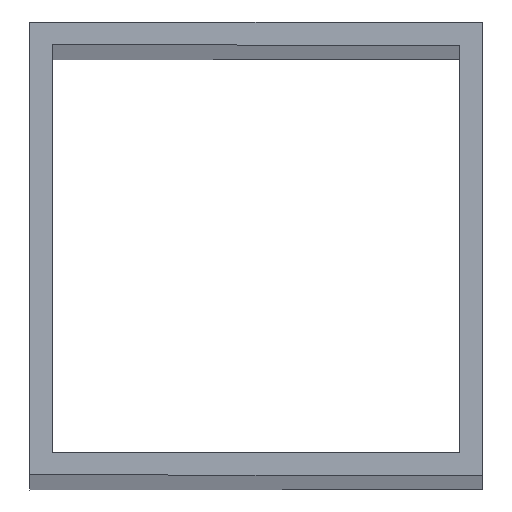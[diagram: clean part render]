
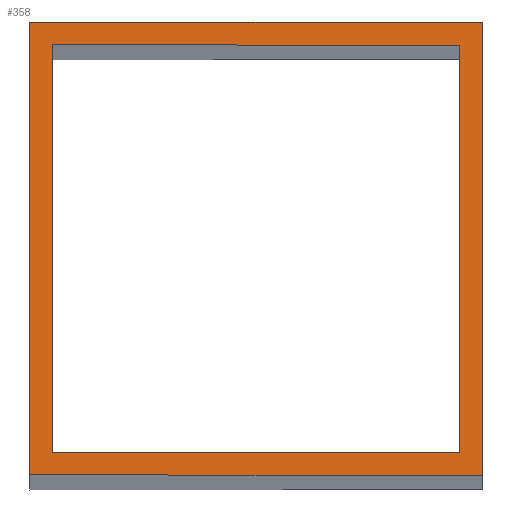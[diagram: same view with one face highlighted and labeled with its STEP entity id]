
A CAD part, top view. The second image highlights one B-rep face of the part: STEP entity #358.
In plain terms, the highlighted planar face has unit normal (0.707, 0, 0.707).
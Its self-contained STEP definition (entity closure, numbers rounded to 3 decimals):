
#32 = PLANE('',#33);
#33 = AXIS2_PLACEMENT_3D('',#34,#35,#36);
#34 = CARTESIAN_POINT('',(-40.,-40.,-40.));
#35 = DIRECTION('',(0.,1.,0.));
#36 = DIRECTION('',(1.,0.,0.));
#55 = VERTEX_POINT('',#56);
#56 = CARTESIAN_POINT('',(-40.,-40.,1503.138));
#70 = PLANE('',#71);
#71 = AXIS2_PLACEMENT_3D('',#72,#73,#74);
#72 = CARTESIAN_POINT('',(-40.,40.,-40.));
#73 = DIRECTION('',(1.,0.,-0.));
#74 = DIRECTION('',(0.,-1.,0.));
#82 = EDGE_CURVE('',#83,#55,#85,.T.);
#83 = VERTEX_POINT('',#84);
#84 = CARTESIAN_POINT('',(40.,-40.,1423.138));
#85 = SURFACE_CURVE('',#86,(#90,#96),.PCURVE_S1.);
#86 = LINE('',#87,#88);
#87 = CARTESIAN_POINT('',(731.569,-40.,731.569));
#88 = VECTOR('',#89,1.);
#89 = DIRECTION('',(-0.707,0.,0.707));
#90 = PCURVE('',#32,#91);
#91 = DEFINITIONAL_REPRESENTATION('',(#92),#95);
#92 = B_SPLINE_CURVE_WITH_KNOTS('',1,(#93,#94),.UNSPECIFIED.,.F.,.F.,(2,
    2),(978.027,1091.164),.PIECEWISE_BEZIER_KNOTS.);
#93 = CARTESIAN_POINT('',(80.,-1463.138));
#94 = CARTESIAN_POINT('',(0.,-1543.138));
#95 = ( GEOMETRIC_REPRESENTATION_CONTEXT(2) 
PARAMETRIC_REPRESENTATION_CONTEXT() REPRESENTATION_CONTEXT('2D SPACE',''
  ) );
#96 = PCURVE('',#97,#102);
#97 = PLANE('',#98);
#98 = AXIS2_PLACEMENT_3D('',#99,#100,#101);
#99 = CARTESIAN_POINT('',(731.569,-0.,731.569));
#100 = DIRECTION('',(-0.707,0.,-0.707));
#101 = DIRECTION('',(-0.707,0.,0.707));
#102 = DEFINITIONAL_REPRESENTATION('',(#103),#106);
#103 = B_SPLINE_CURVE_WITH_KNOTS('',1,(#104,#105),.UNSPECIFIED.,.F.,.F.,
  (2,2),(978.027,1091.164),.PIECEWISE_BEZIER_KNOTS.);
#104 = CARTESIAN_POINT('',(978.027,-40.));
#105 = CARTESIAN_POINT('',(1091.164,-40.));
#106 = ( GEOMETRIC_REPRESENTATION_CONTEXT(2) 
PARAMETRIC_REPRESENTATION_CONTEXT() REPRESENTATION_CONTEXT('2D SPACE',''
  ) );
#122 = PLANE('',#123);
#123 = AXIS2_PLACEMENT_3D('',#124,#125,#126);
#124 = CARTESIAN_POINT('',(40.,-40.,-40.));
#125 = DIRECTION('',(-1.,0.,0.));
#126 = DIRECTION('',(0.,1.,0.));
#154 = PLANE('',#155);
#155 = AXIS2_PLACEMENT_3D('',#156,#157,#158);
#156 = CARTESIAN_POINT('',(40.,40.,-40.));
#157 = DIRECTION('',(0.,-1.,0.));
#158 = DIRECTION('',(-1.,0.,0.));
#225 = PLANE('',#226);
#226 = AXIS2_PLACEMENT_3D('',#227,#228,#229);
#227 = CARTESIAN_POINT('',(-36.,-36.,-40.));
#228 = DIRECTION('',(0.,1.,0.));
#229 = DIRECTION('',(1.,0.,0.));
#251 = PLANE('',#252);
#252 = AXIS2_PLACEMENT_3D('',#253,#254,#255);
#253 = CARTESIAN_POINT('',(-36.,36.,-40.));
#254 = DIRECTION('',(1.,0.,-0.));
#255 = DIRECTION('',(0.,-1.,0.));
#277 = PLANE('',#278);
#278 = AXIS2_PLACEMENT_3D('',#279,#280,#281);
#279 = CARTESIAN_POINT('',(36.,36.,-40.));
#280 = DIRECTION('',(0.,-1.,0.));
#281 = DIRECTION('',(-1.,0.,0.));
#301 = PLANE('',#302);
#302 = AXIS2_PLACEMENT_3D('',#303,#304,#305);
#303 = CARTESIAN_POINT('',(36.,-36.,-40.));
#304 = DIRECTION('',(-1.,0.,0.));
#305 = DIRECTION('',(0.,1.,0.));
#317 = EDGE_CURVE('',#318,#83,#320,.T.);
#318 = VERTEX_POINT('',#319);
#319 = CARTESIAN_POINT('',(40.,40.,1423.138));
#320 = SURFACE_CURVE('',#321,(#325,#331),.PCURVE_S1.);
#321 = LINE('',#322,#323);
#322 = CARTESIAN_POINT('',(40.,-20.,1423.138));
#323 = VECTOR('',#324,1.);
#324 = DIRECTION('',(-0.,-1.,0.));
#325 = PCURVE('',#122,#326);
#326 = DEFINITIONAL_REPRESENTATION('',(#327),#330);
#327 = B_SPLINE_CURVE_WITH_KNOTS('',1,(#328,#329),.UNSPECIFIED.,.F.,.F.,
  (2,2),(-60.,20.),.PIECEWISE_BEZIER_KNOTS.);
#328 = CARTESIAN_POINT('',(80.,-1463.138));
#329 = CARTESIAN_POINT('',(0.,-1463.138));
#330 = ( GEOMETRIC_REPRESENTATION_CONTEXT(2) 
PARAMETRIC_REPRESENTATION_CONTEXT() REPRESENTATION_CONTEXT('2D SPACE',''
  ) );
#331 = PCURVE('',#97,#332);
#332 = DEFINITIONAL_REPRESENTATION('',(#333),#336);
#333 = B_SPLINE_CURVE_WITH_KNOTS('',1,(#334,#335),.UNSPECIFIED.,.F.,.F.,
  (2,2),(-60.,20.),.PIECEWISE_BEZIER_KNOTS.);
#334 = CARTESIAN_POINT('',(978.027,40.));
#335 = CARTESIAN_POINT('',(978.027,-40.));
#336 = ( GEOMETRIC_REPRESENTATION_CONTEXT(2) 
PARAMETRIC_REPRESENTATION_CONTEXT() REPRESENTATION_CONTEXT('2D SPACE',''
  ) );
#358 = ADVANCED_FACE('',(#359,#405),#97,.F.);
#359 = FACE_BOUND('',#360,.F.);
#360 = EDGE_LOOP('',(#361,#384,#403,#404));
#361 = ORIENTED_EDGE('',*,*,#362,.F.);
#362 = EDGE_CURVE('',#363,#55,#365,.T.);
#363 = VERTEX_POINT('',#364);
#364 = CARTESIAN_POINT('',(-40.,40.,1503.138));
#365 = SURFACE_CURVE('',#366,(#370,#377),.PCURVE_S1.);
#366 = LINE('',#367,#368);
#367 = CARTESIAN_POINT('',(-40.,40.,1503.138));
#368 = VECTOR('',#369,1.);
#369 = DIRECTION('',(0.,-1.,0.));
#370 = PCURVE('',#97,#371);
#371 = DEFINITIONAL_REPRESENTATION('',(#372),#376);
#372 = LINE('',#373,#374);
#373 = CARTESIAN_POINT('',(1091.164,40.));
#374 = VECTOR('',#375,1.);
#375 = DIRECTION('',(0.,-1.));
#376 = ( GEOMETRIC_REPRESENTATION_CONTEXT(2) 
PARAMETRIC_REPRESENTATION_CONTEXT() REPRESENTATION_CONTEXT('2D SPACE',''
  ) );
#377 = PCURVE('',#70,#378);
#378 = DEFINITIONAL_REPRESENTATION('',(#379),#383);
#379 = LINE('',#380,#381);
#380 = CARTESIAN_POINT('',(0.,-1543.138));
#381 = VECTOR('',#382,1.);
#382 = DIRECTION('',(1.,0.));
#383 = ( GEOMETRIC_REPRESENTATION_CONTEXT(2) 
PARAMETRIC_REPRESENTATION_CONTEXT() REPRESENTATION_CONTEXT('2D SPACE',''
  ) );
#384 = ORIENTED_EDGE('',*,*,#385,.T.);
#385 = EDGE_CURVE('',#363,#318,#386,.T.);
#386 = SURFACE_CURVE('',#387,(#391,#397),.PCURVE_S1.);
#387 = LINE('',#388,#389);
#388 = CARTESIAN_POINT('',(751.569,40.,711.569));
#389 = VECTOR('',#390,1.);
#390 = DIRECTION('',(0.707,0.,-0.707));
#391 = PCURVE('',#97,#392);
#392 = DEFINITIONAL_REPRESENTATION('',(#393),#396);
#393 = B_SPLINE_CURVE_WITH_KNOTS('',1,(#394,#395),.UNSPECIFIED.,.F.,.F.,
  (2,2),(-1119.448,-1006.311),
  .PIECEWISE_BEZIER_KNOTS.);
#394 = CARTESIAN_POINT('',(1091.164,40.));
#395 = CARTESIAN_POINT('',(978.027,40.));
#396 = ( GEOMETRIC_REPRESENTATION_CONTEXT(2) 
PARAMETRIC_REPRESENTATION_CONTEXT() REPRESENTATION_CONTEXT('2D SPACE',''
  ) );
#397 = PCURVE('',#154,#398);
#398 = DEFINITIONAL_REPRESENTATION('',(#399),#402);
#399 = B_SPLINE_CURVE_WITH_KNOTS('',1,(#400,#401),.UNSPECIFIED.,.F.,.F.,
  (2,2),(-1119.448,-1006.311),
  .PIECEWISE_BEZIER_KNOTS.);
#400 = CARTESIAN_POINT('',(80.,-1543.138));
#401 = CARTESIAN_POINT('',(0.,-1463.138));
#402 = ( GEOMETRIC_REPRESENTATION_CONTEXT(2) 
PARAMETRIC_REPRESENTATION_CONTEXT() REPRESENTATION_CONTEXT('2D SPACE',''
  ) );
#403 = ORIENTED_EDGE('',*,*,#317,.T.);
#404 = ORIENTED_EDGE('',*,*,#82,.T.);
#405 = FACE_BOUND('',#406,.F.);
#406 = EDGE_LOOP('',(#407,#430,#451,#472));
#407 = ORIENTED_EDGE('',*,*,#408,.F.);
#408 = EDGE_CURVE('',#409,#411,#413,.T.);
#409 = VERTEX_POINT('',#410);
#410 = CARTESIAN_POINT('',(36.,-36.,1427.138));
#411 = VERTEX_POINT('',#412);
#412 = CARTESIAN_POINT('',(-36.,-36.,1499.138));
#413 = SURFACE_CURVE('',#414,(#418,#424),.PCURVE_S1.);
#414 = LINE('',#415,#416);
#415 = CARTESIAN_POINT('',(732.569,-36.,730.569));
#416 = VECTOR('',#417,1.);
#417 = DIRECTION('',(-0.707,0.,0.707));
#418 = PCURVE('',#97,#419);
#419 = DEFINITIONAL_REPRESENTATION('',(#420),#423);
#420 = B_SPLINE_CURVE_WITH_KNOTS('',1,(#421,#422),.UNSPECIFIED.,.F.,.F.,
  (2,2),(985.098,1086.921),.PIECEWISE_BEZIER_KNOTS.);
#421 = CARTESIAN_POINT('',(983.683,-36.));
#422 = CARTESIAN_POINT('',(1085.507,-36.));
#423 = ( GEOMETRIC_REPRESENTATION_CONTEXT(2) 
PARAMETRIC_REPRESENTATION_CONTEXT() REPRESENTATION_CONTEXT('2D SPACE',''
  ) );
#424 = PCURVE('',#225,#425);
#425 = DEFINITIONAL_REPRESENTATION('',(#426),#429);
#426 = B_SPLINE_CURVE_WITH_KNOTS('',1,(#427,#428),.UNSPECIFIED.,.F.,.F.,
  (2,2),(985.098,1086.921),.PIECEWISE_BEZIER_KNOTS.);
#427 = CARTESIAN_POINT('',(72.,-1467.138));
#428 = CARTESIAN_POINT('',(0.,-1539.138));
#429 = ( GEOMETRIC_REPRESENTATION_CONTEXT(2) 
PARAMETRIC_REPRESENTATION_CONTEXT() REPRESENTATION_CONTEXT('2D SPACE',''
  ) );
#430 = ORIENTED_EDGE('',*,*,#431,.F.);
#431 = EDGE_CURVE('',#432,#409,#434,.T.);
#432 = VERTEX_POINT('',#433);
#433 = CARTESIAN_POINT('',(36.,36.,1427.138));
#434 = SURFACE_CURVE('',#435,(#439,#445),.PCURVE_S1.);
#435 = LINE('',#436,#437);
#436 = CARTESIAN_POINT('',(36.,-18.,1427.138));
#437 = VECTOR('',#438,1.);
#438 = DIRECTION('',(-0.,-1.,0.));
#439 = PCURVE('',#97,#440);
#440 = DEFINITIONAL_REPRESENTATION('',(#441),#444);
#441 = B_SPLINE_CURVE_WITH_KNOTS('',1,(#442,#443),.UNSPECIFIED.,.F.,.F.,
  (2,2),(-54.,18.),.PIECEWISE_BEZIER_KNOTS.);
#442 = CARTESIAN_POINT('',(983.683,36.));
#443 = CARTESIAN_POINT('',(983.683,-36.));
#444 = ( GEOMETRIC_REPRESENTATION_CONTEXT(2) 
PARAMETRIC_REPRESENTATION_CONTEXT() REPRESENTATION_CONTEXT('2D SPACE',''
  ) );
#445 = PCURVE('',#301,#446);
#446 = DEFINITIONAL_REPRESENTATION('',(#447),#450);
#447 = B_SPLINE_CURVE_WITH_KNOTS('',1,(#448,#449),.UNSPECIFIED.,.F.,.F.,
  (2,2),(-54.,18.),.PIECEWISE_BEZIER_KNOTS.);
#448 = CARTESIAN_POINT('',(72.,-1467.138));
#449 = CARTESIAN_POINT('',(0.,-1467.138));
#450 = ( GEOMETRIC_REPRESENTATION_CONTEXT(2) 
PARAMETRIC_REPRESENTATION_CONTEXT() REPRESENTATION_CONTEXT('2D SPACE',''
  ) );
#451 = ORIENTED_EDGE('',*,*,#452,.F.);
#452 = EDGE_CURVE('',#453,#432,#455,.T.);
#453 = VERTEX_POINT('',#454);
#454 = CARTESIAN_POINT('',(-36.,36.,1499.138));
#455 = SURFACE_CURVE('',#456,(#460,#466),.PCURVE_S1.);
#456 = LINE('',#457,#458);
#457 = CARTESIAN_POINT('',(750.569,36.,712.569));
#458 = VECTOR('',#459,1.);
#459 = DIRECTION('',(0.707,0.,-0.707));
#460 = PCURVE('',#97,#461);
#461 = DEFINITIONAL_REPRESENTATION('',(#462),#465);
#462 = B_SPLINE_CURVE_WITH_KNOTS('',1,(#463,#464),.UNSPECIFIED.,.F.,.F.,
  (2,2),(-1112.377,-1010.553),
  .PIECEWISE_BEZIER_KNOTS.);
#463 = CARTESIAN_POINT('',(1085.507,36.));
#464 = CARTESIAN_POINT('',(983.683,36.));
#465 = ( GEOMETRIC_REPRESENTATION_CONTEXT(2) 
PARAMETRIC_REPRESENTATION_CONTEXT() REPRESENTATION_CONTEXT('2D SPACE',''
  ) );
#466 = PCURVE('',#277,#467);
#467 = DEFINITIONAL_REPRESENTATION('',(#468),#471);
#468 = B_SPLINE_CURVE_WITH_KNOTS('',1,(#469,#470),.UNSPECIFIED.,.F.,.F.,
  (2,2),(-1112.377,-1010.553),
  .PIECEWISE_BEZIER_KNOTS.);
#469 = CARTESIAN_POINT('',(72.,-1539.138));
#470 = CARTESIAN_POINT('',(0.,-1467.138));
#471 = ( GEOMETRIC_REPRESENTATION_CONTEXT(2) 
PARAMETRIC_REPRESENTATION_CONTEXT() REPRESENTATION_CONTEXT('2D SPACE',''
  ) );
#472 = ORIENTED_EDGE('',*,*,#473,.F.);
#473 = EDGE_CURVE('',#411,#453,#474,.T.);
#474 = SURFACE_CURVE('',#475,(#479,#485),.PCURVE_S1.);
#475 = LINE('',#476,#477);
#476 = CARTESIAN_POINT('',(-36.,18.,1499.138));
#477 = VECTOR('',#478,1.);
#478 = DIRECTION('',(0.,1.,0.));
#479 = PCURVE('',#97,#480);
#480 = DEFINITIONAL_REPRESENTATION('',(#481),#484);
#481 = B_SPLINE_CURVE_WITH_KNOTS('',1,(#482,#483),.UNSPECIFIED.,.F.,.F.,
  (2,2),(-54.,18.),.PIECEWISE_BEZIER_KNOTS.);
#482 = CARTESIAN_POINT('',(1085.507,-36.));
#483 = CARTESIAN_POINT('',(1085.507,36.));
#484 = ( GEOMETRIC_REPRESENTATION_CONTEXT(2) 
PARAMETRIC_REPRESENTATION_CONTEXT() REPRESENTATION_CONTEXT('2D SPACE',''
  ) );
#485 = PCURVE('',#251,#486);
#486 = DEFINITIONAL_REPRESENTATION('',(#487),#490);
#487 = B_SPLINE_CURVE_WITH_KNOTS('',1,(#488,#489),.UNSPECIFIED.,.F.,.F.,
  (2,2),(-54.,18.),.PIECEWISE_BEZIER_KNOTS.);
#488 = CARTESIAN_POINT('',(72.,-1539.138));
#489 = CARTESIAN_POINT('',(0.,-1539.138));
#490 = ( GEOMETRIC_REPRESENTATION_CONTEXT(2) 
PARAMETRIC_REPRESENTATION_CONTEXT() REPRESENTATION_CONTEXT('2D SPACE',''
  ) );
